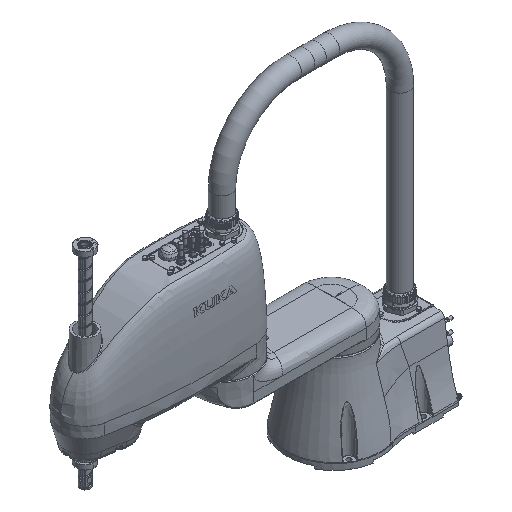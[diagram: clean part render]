
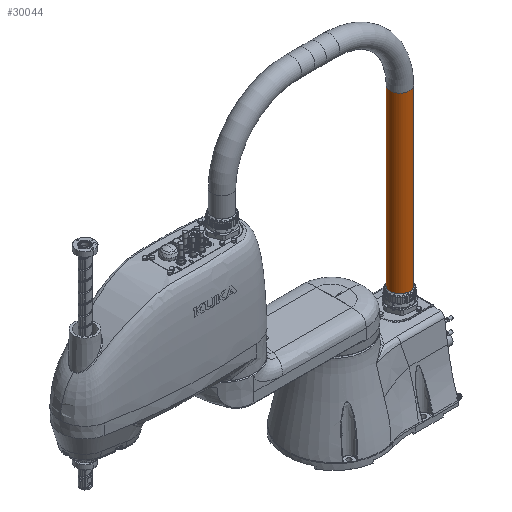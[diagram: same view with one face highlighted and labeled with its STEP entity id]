
A CAD part, isometric view. The second image highlights one B-rep face of the part: STEP entity #30044.
In plain terms, the highlighted cylindrical face has radius 19.5 mm (diameter 39 mm), a full revolution.
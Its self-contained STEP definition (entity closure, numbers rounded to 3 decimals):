
#21632=CYLINDRICAL_SURFACE('',#97490,19.5);
#30044=ADVANCED_FACE('',(#36760,#36761),#21632,.T.);
#36760=FACE_BOUND('',#41845,.T.);
#36761=FACE_BOUND('',#41846,.T.);
#41845=EDGE_LOOP('',(#70319));
#41846=EDGE_LOOP('',(#70320));
#70319=ORIENTED_EDGE('',*,*,#87718,.F.);
#70320=ORIENTED_EDGE('',*,*,#87719,.T.);
#77199=VERTEX_POINT('',#447349);
#77200=VERTEX_POINT('',#447351);
#87718=EDGE_CURVE('',#77199,#77199,#90680,.T.);
#87719=EDGE_CURVE('',#77200,#77200,#90681,.T.);
#90680=CIRCLE('',#97488,19.5);
#90681=CIRCLE('',#97489,19.5);
#97488=AXIS2_PLACEMENT_3D('',#447348,#114935,#114936);
#97489=AXIS2_PLACEMENT_3D('',#447350,#114937,#114938);
#97490=AXIS2_PLACEMENT_3D('',#447352,#114939,#114940);
#114935=DIRECTION('',(0.,0.,-1.));
#114936=DIRECTION('',(-1.,0.,0.));
#114937=DIRECTION('',(0.,0.,-1.));
#114938=DIRECTION('',(-1.,0.,0.));
#114939=DIRECTION('',(0.,0.,-1.));
#114940=DIRECTION('',(-1.,0.,0.));
#447348=CARTESIAN_POINT('',(0.,0.,-30.));
#447349=CARTESIAN_POINT('',(-19.5,0.,-30.));
#447350=CARTESIAN_POINT('',(0.,0.,318.5));
#447351=CARTESIAN_POINT('',(-19.5,0.,318.5));
#447352=CARTESIAN_POINT('',(0.,0.,318.5));
